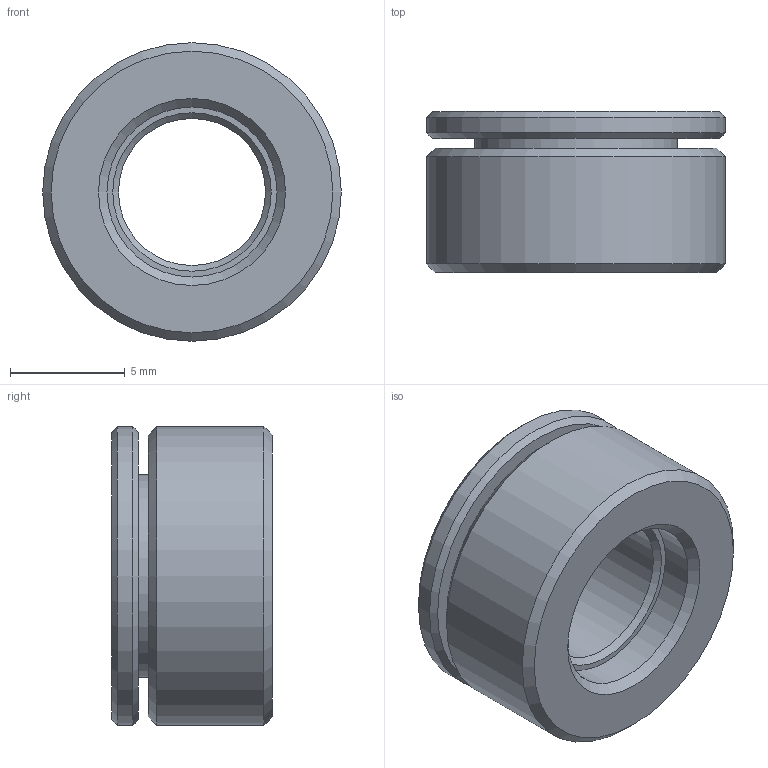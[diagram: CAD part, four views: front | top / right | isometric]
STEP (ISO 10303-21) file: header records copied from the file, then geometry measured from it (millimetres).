
FILE_DESCRIPTION( ( 'STEP AP203' ), '1' );
FILE_NAME( 'C:/Temp/Ganter_Step_05_03_2020/data/3_2/gn6319_1/gn_6319_1_ni/Stainless Steel-Spherical washer GN 6319.1-13-NI.stp', '2020-03-13T05:32:16', ( 'License CC BY-ND 4.0' ), ( 'CADENAS' ), ' ', 'PARTsolutions', ' ' );
FILE_SCHEMA( ( 'CONFIG_CONTROL_DESIGN' ) );
Length unit declared in the file: millimetre
Products named in the file (1): _Stainless Steel-Spherical washer GN 6319.1-13-NI
Bounding box: 13 x 7 x 13 mm (x, y, z)
Volume: 561.9 mm3; surface area: 932.5 mm2
Topology: 1 solids, 1 shells, 23 faces, 39 edges, 23 vertices
Faces by surface type: cone 9, cylinder 7, plane 7
Full cylindrical faces by diameter (mm): 6.4 x1, 7.4 x1, 8.8 x1, 10.2 x1, 11.78 x1, 13 x2
Entity records: 512 total; most frequent: DIRECTION 94, CARTESIAN_POINT 70, AXIS2_PLACEMENT_3D 47, EDGE_LOOP 46, ORIENTED_EDGE 46, FACE_OUTER_BOUND 30, ADVANCED_FACE 23, EDGE_CURVE 23
